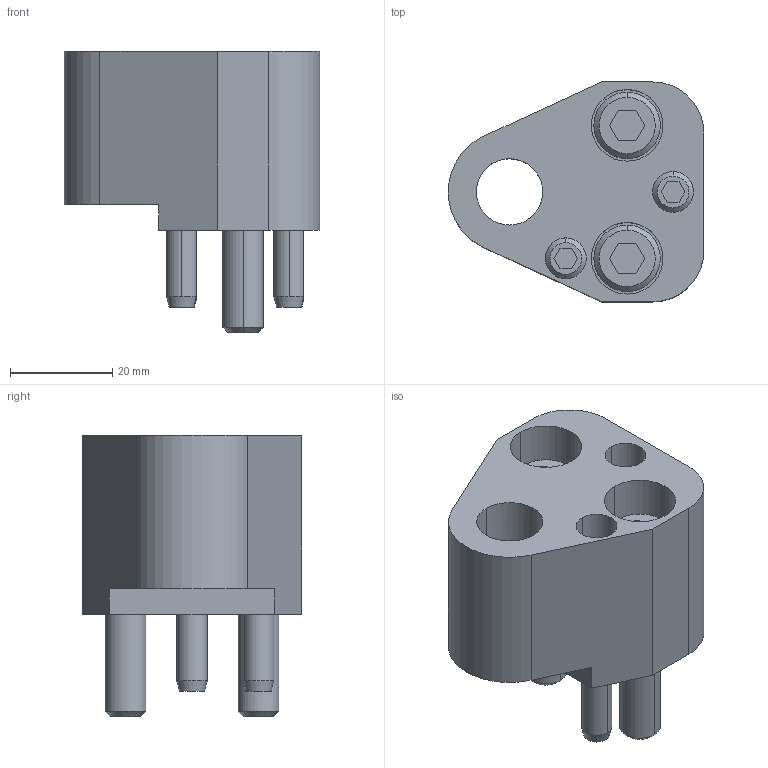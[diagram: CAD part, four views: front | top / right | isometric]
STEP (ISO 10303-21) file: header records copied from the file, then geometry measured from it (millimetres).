
FILE_DESCRIPTION(/* description */ (''),/* implementation_level */ '2;1');
FILE_NAME(/* name */ '3d_hapfr13_04014_r00.stp',/* time_stamp */ '2011-01-10T14:14:57+09:00',/* author */ ('MISUMI'),/* organization */ (''),/* preprocessor_version */ 'ST-DEVELOPER v11',/* originating_system */ 'UGS - NX 5.0',/* authorisation */ '');
FILE_SCHEMA (('CONFIG_CONTROL_DESIGN'));
Length unit declared in the file: millimetre
Products named in the file (1): 3d_hapfr13_04014_r00
Bounding box: 50 x 43 x 55 mm (x, y, z)
Volume: 50190.8 mm3; surface area: 18576.4 mm2
Topology: 7 solids, 7 shells, 134 faces, 298 edges, 191 vertices
Faces by surface type: plane 61, cylinder 47, cone 26
Entity records: 3858 total; most frequent: CARTESIAN_POINT 683, DIRECTION 682, ORIENTED_EDGE 596, EDGE_CURVE 298, AXIS2_PLACEMENT_3D 256, VERTEX_POINT 191, LINE 170, VECTOR 170
